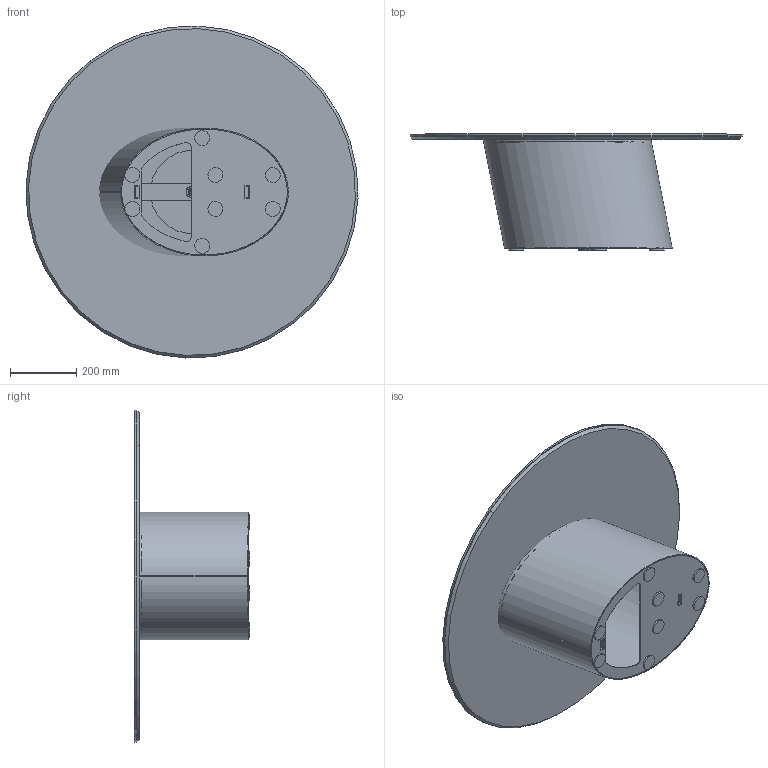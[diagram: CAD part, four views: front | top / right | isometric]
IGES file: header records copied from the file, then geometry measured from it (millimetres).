
Start section: SolidWorks IGES file using analytic representation for surfaces
Global section: file name: Y:\eforma\TECNICO\SOLIDWORKS\E-FORMA\2-TAVOLINI\DORADO LOW\02 parts\D103C.IGS; native system: SolidWorks 2022; preprocessor: SolidWorks 2022; author: eforma.tech; date: 240807.131833; units: millimetre
Bounding box: 999.3 x 349 x 999.3 mm (x, y, z)
Volume: 14704595.2 mm3; surface area: 4742742 mm2
Topology: 20 solids, 20 shells, 246 faces, 593 edges, 386 vertices
Faces by surface type: revolution 127, plane 102, bspline 17
